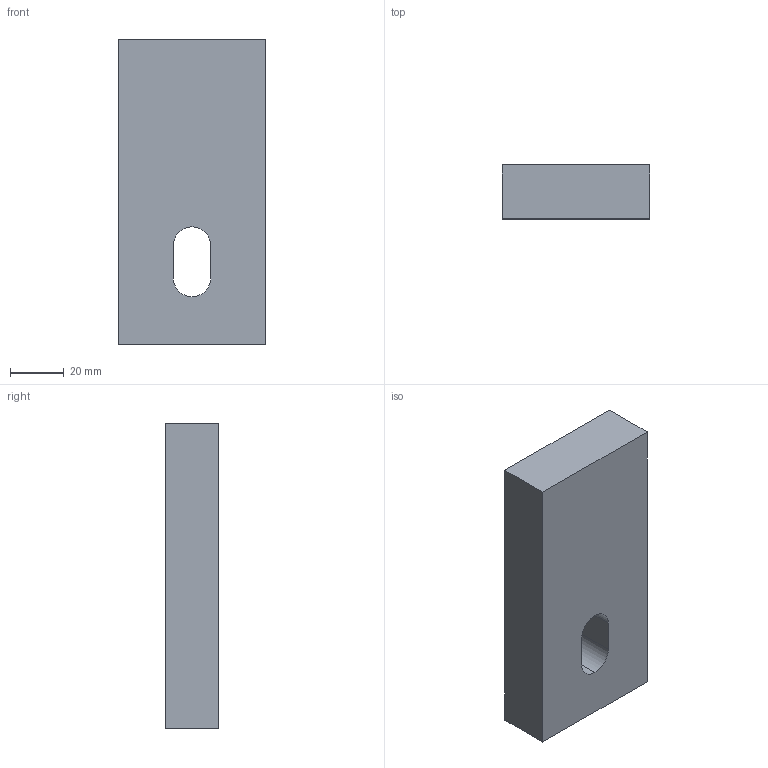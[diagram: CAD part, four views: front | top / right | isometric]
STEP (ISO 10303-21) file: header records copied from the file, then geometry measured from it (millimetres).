
FILE_DESCRIPTION (( 'STEP AP203' ), '1' );
FILE_NAME ('111345.STEP', '2020-01-20T08:21:23', ( '' ), ( '' ), 'SwSTEP 2.0', 'SolidWorks 2013', '' );
FILE_SCHEMA (( 'CONFIG_CONTROL_DESIGN' ));
Length unit declared in the file: millimetre
Products named in the file (1): 111345
Bounding box: 55 x 20 x 114 mm (x, y, z)
Volume: 118961.2 mm3; surface area: 20015.8 mm2
Topology: 1 solids, 1 shells, 11 faces, 27 edges, 18 vertices
Faces by surface type: plane 8, cylinder 3
Entity records: 408 total; most frequent: DIRECTION 57, CARTESIAN_POINT 57, ORIENTED_EDGE 54, EDGE_CURVE 27, VECTOR 21, LINE 21, AXIS2_PLACEMENT_3D 18, VERTEX_POINT 18
